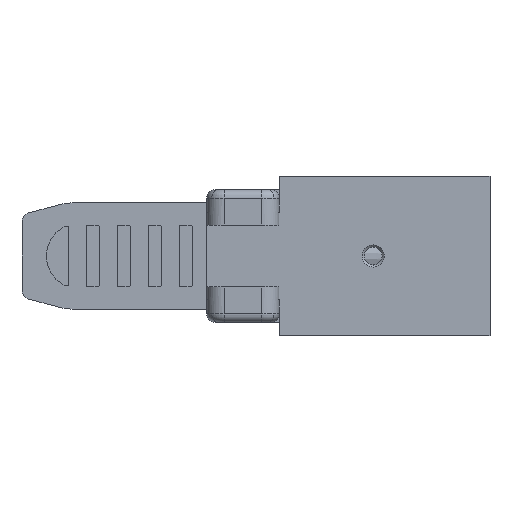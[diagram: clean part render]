
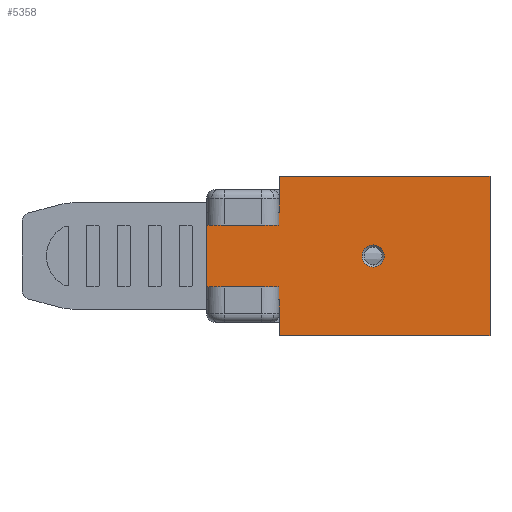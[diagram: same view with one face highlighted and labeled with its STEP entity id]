
A CAD part, front view. The second image highlights one B-rep face of the part: STEP entity #5358.
In plain terms, the highlighted planar face has unit normal (0, -1, 0).
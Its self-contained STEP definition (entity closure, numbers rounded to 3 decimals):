
#230 = DIRECTION ( 'NONE',  ( 0., 0., -1. ) ) ;
#273 = DIRECTION ( 'NONE',  ( 0., 0., -1. ) ) ;
#365 = EDGE_CURVE ( 'NONE', #6098, #7535, #8403, .T. ) ;
#473 = CARTESIAN_POINT ( 'NONE',  ( -9.5, -5., -9. ) ) ;
#503 = EDGE_CURVE ( 'NONE', #6098, #809, #3164, .T. ) ;
#518 = VECTOR ( 'NONE', #273, 1000. ) ;
#809 = VERTEX_POINT ( 'NONE', #5496 ) ;
#874 = CARTESIAN_POINT ( 'NONE',  ( -9.5, -5., 9. ) ) ;
#882 = ORIENTED_EDGE ( 'NONE', *, *, #3896, .T. ) ;
#1177 = CARTESIAN_POINT ( 'NONE',  ( -1.3, -5., 9. ) ) ;
#1181 = CARTESIAN_POINT ( 'NONE',  ( 22.5, -5., -9. ) ) ;
#1324 = ORIENTED_EDGE ( 'NONE', *, *, #5616, .F. ) ;
#1839 = ORIENTED_EDGE ( 'NONE', *, *, #9173, .F. ) ;
#2183 = CARTESIAN_POINT ( 'NONE',  ( -9.5, -5., 4.95 ) ) ;
#2454 = EDGE_CURVE ( 'NONE', #809, #3460, #6023, .T. ) ;
#2463 = ORIENTED_EDGE ( 'NONE', *, *, #5089, .T. ) ;
#2506 = AXIS2_PLACEMENT_3D ( 'NONE', #11072, #5679, #230 ) ;
#2535 = VERTEX_POINT ( 'NONE', #8420 ) ;
#2578 = CARTESIAN_POINT ( 'NONE',  ( 22.5, -5., 9. ) ) ;
#2595 = DIRECTION ( 'NONE',  ( 0., -1., 0. ) ) ;
#2729 = CARTESIAN_POINT ( 'NONE',  ( -1.3, -5., -9. ) ) ;
#2935 = LINE ( 'NONE', #5171, #3218 ) ;
#3134 = VERTEX_POINT ( 'NONE', #3248 ) ;
#3164 = LINE ( 'NONE', #3692, #10089 ) ;
#3218 = VECTOR ( 'NONE', #7033, 1000. ) ;
#3248 = CARTESIAN_POINT ( 'NONE',  ( 9.3, -5., 1.25 ) ) ;
#3306 = CARTESIAN_POINT ( 'NONE',  ( -1.3, -5., -4.95 ) ) ;
#3341 = CIRCLE ( 'NONE', #2506, 1.25 ) ;
#3400 = VERTEX_POINT ( 'NONE', #2183 ) ;
#3460 = VERTEX_POINT ( 'NONE', #1181 ) ;
#3464 = CARTESIAN_POINT ( 'NONE',  ( -9.5, -5., -4.95 ) ) ;
#3478 = VECTOR ( 'NONE', #5447, 1000. ) ;
#3496 = DIRECTION ( 'NONE',  ( 0., 1., 0. ) ) ;
#3604 = CARTESIAN_POINT ( 'NONE',  ( -1.3, -5., 9. ) ) ;
#3634 = VERTEX_POINT ( 'NONE', #3306 ) ;
#3692 = CARTESIAN_POINT ( 'NONE',  ( -9.5, -5., 9. ) ) ;
#3896 = EDGE_CURVE ( 'NONE', #3400, #6001, #10690, .T. ) ;
#4148 = VECTOR ( 'NONE', #7102, 1000. ) ;
#4207 = FACE_OUTER_BOUND ( 'NONE', #8623, .T. ) ;
#4215 = DIRECTION ( 'NONE',  ( 1., 0., 0. ) ) ;
#4258 = CIRCLE ( 'NONE', #8935, 1.25 ) ;
#4365 = PLANE ( 'NONE',  #9008 ) ;
#4389 = DIRECTION ( 'NONE',  ( 0., 0., -1. ) ) ;
#5008 = CARTESIAN_POINT ( 'NONE',  ( -1.3, -5., 4.95 ) ) ;
#5073 = LINE ( 'NONE', #1177, #518 ) ;
#5089 = EDGE_CURVE ( 'NONE', #3634, #11031, #5073, .T. ) ;
#5171 = CARTESIAN_POINT ( 'NONE',  ( -9.5, -5., 4.95 ) ) ;
#5190 = ORIENTED_EDGE ( 'NONE', *, *, #2454, .F. ) ;
#5311 = EDGE_CURVE ( 'NONE', #11031, #3460, #10145, .T. ) ;
#5358 = ADVANCED_FACE ( 'NONE', ( #9003, #4207 ), #4365, .F. ) ;
#5447 = DIRECTION ( 'NONE',  ( 0., 0., -1. ) ) ;
#5496 = CARTESIAN_POINT ( 'NONE',  ( 22.5, -5., 9. ) ) ;
#5616 = EDGE_CURVE ( 'NONE', #3134, #2535, #3341, .T. ) ;
#5679 = DIRECTION ( 'NONE',  ( 0., -1., 0. ) ) ;
#5748 = VECTOR ( 'NONE', #4389, 1000. ) ;
#6001 = VERTEX_POINT ( 'NONE', #11390 ) ;
#6023 = LINE ( 'NONE', #2578, #5748 ) ;
#6098 = VERTEX_POINT ( 'NONE', #9045 ) ;
#6644 = ORIENTED_EDGE ( 'NONE', *, *, #365, .T. ) ;
#7033 = DIRECTION ( 'NONE',  ( 1., 0., 0. ) ) ;
#7102 = DIRECTION ( 'NONE',  ( -1., 0., 0. ) ) ;
#7311 = DIRECTION ( 'NONE',  ( 0., 0., -1. ) ) ;
#7535 = VERTEX_POINT ( 'NONE', #5008 ) ;
#7746 = VECTOR ( 'NONE', #9554, 1000. ) ;
#7829 = VECTOR ( 'NONE', #7311, 1000. ) ;
#8013 = CARTESIAN_POINT ( 'NONE',  ( 9.3, -5., 0. ) ) ;
#8403 = LINE ( 'NONE', #3604, #7829 ) ;
#8420 = CARTESIAN_POINT ( 'NONE',  ( 9.3, -5., -1.25 ) ) ;
#8623 = EDGE_LOOP ( 'NONE', ( #1839, #2463, #11181, #5190, #10376, #6644, #10715, #882 ) ) ;
#8654 = EDGE_CURVE ( 'NONE', #3400, #7535, #2935, .T. ) ;
#8911 = CARTESIAN_POINT ( 'NONE',  ( -9.5, -5., 9. ) ) ;
#8918 = DIRECTION ( 'NONE',  ( 0., 0., -1. ) ) ;
#8935 = AXIS2_PLACEMENT_3D ( 'NONE', #8013, #2595, #8918 ) ;
#8939 = LINE ( 'NONE', #3464, #4148 ) ;
#9003 = FACE_BOUND ( 'NONE', #11656, .T. ) ;
#9008 = AXIS2_PLACEMENT_3D ( 'NONE', #8911, #3496, #9806 ) ;
#9045 = CARTESIAN_POINT ( 'NONE',  ( -1.3, -5., 9. ) ) ;
#9173 = EDGE_CURVE ( 'NONE', #3634, #6001, #8939, .T. ) ;
#9554 = DIRECTION ( 'NONE',  ( 1., 0., 0. ) ) ;
#9721 = ORIENTED_EDGE ( 'NONE', *, *, #11514, .F. ) ;
#9806 = DIRECTION ( 'NONE',  ( 0., 0., 1. ) ) ;
#10089 = VECTOR ( 'NONE', #4215, 1000. ) ;
#10145 = LINE ( 'NONE', #473, #7746 ) ;
#10376 = ORIENTED_EDGE ( 'NONE', *, *, #503, .F. ) ;
#10690 = LINE ( 'NONE', #874, #3478 ) ;
#10715 = ORIENTED_EDGE ( 'NONE', *, *, #8654, .F. ) ;
#11031 = VERTEX_POINT ( 'NONE', #2729 ) ;
#11072 = CARTESIAN_POINT ( 'NONE',  ( 9.3, -5., 0. ) ) ;
#11181 = ORIENTED_EDGE ( 'NONE', *, *, #5311, .T. ) ;
#11390 = CARTESIAN_POINT ( 'NONE',  ( -9.5, -5., -4.95 ) ) ;
#11514 = EDGE_CURVE ( 'NONE', #2535, #3134, #4258, .T. ) ;
#11656 = EDGE_LOOP ( 'NONE', ( #9721, #1324 ) ) ;
